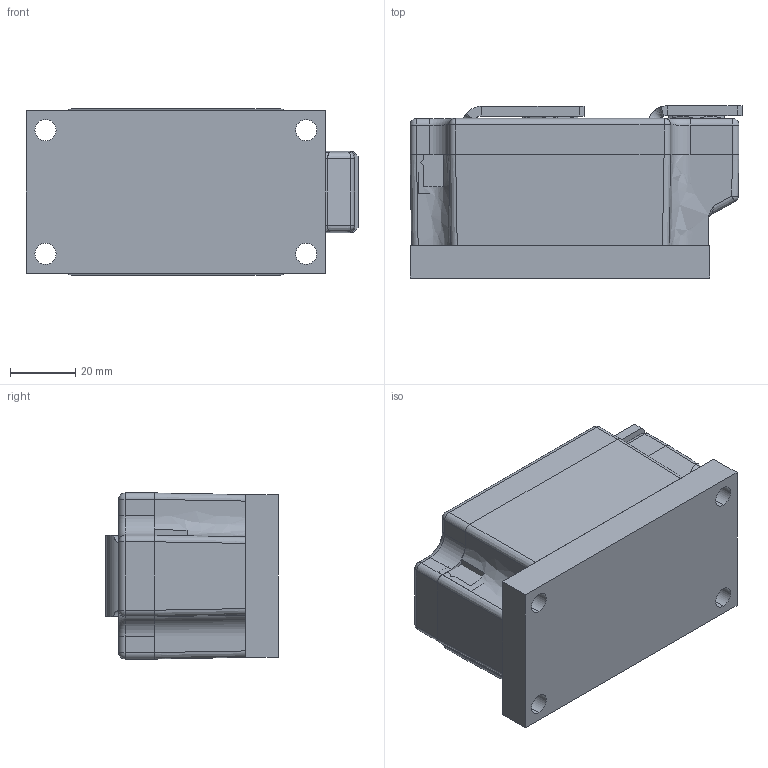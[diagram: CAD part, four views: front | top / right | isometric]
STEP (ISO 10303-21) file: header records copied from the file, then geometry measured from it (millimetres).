
FILE_DESCRIPTION (( 'STEP AP214' ), '1' );
FILE_NAME ('MTD4-D.STEP', '2021-02-08T06:12:08', ( '' ), ( '' ), 'SwSTEP 2.0', 'SolidWorks 2018', '' );
FILE_SCHEMA (( 'AUTOMOTIVE_DESIGN' ));
Length unit declared in the file: millimetre
Products named in the file (1): MTD4-D
Bounding box: 101.93 x 52.93 x 51 mm (x, y, z)
Volume: 107022.8 mm3; surface area: 64670.9 mm2
Topology: 8 solids, 8 shells, 445 faces, 1187 edges, 758 vertices
Faces by surface type: plane 275, cylinder 110, bspline 36, cone 10, sphere 10, torus 4
Entity records: 22721 total; most frequent: CARTESIAN_POINT 6853, ORIENTED_EDGE 2358, DIRECTION 2089, EDGE_CURVE 1179, VERTEX_POINT 758, VECTOR 741, LINE 741, AXIS2_PLACEMENT_3D 674
